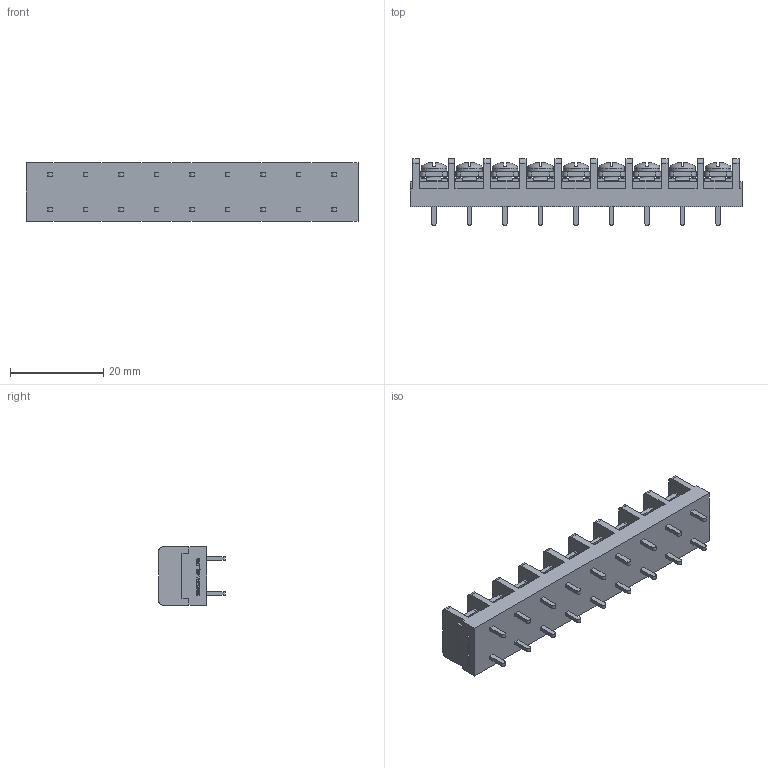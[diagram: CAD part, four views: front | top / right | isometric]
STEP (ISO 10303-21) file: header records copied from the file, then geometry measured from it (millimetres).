
FILE_DESCRIPTION(/* description */ ('Alibre Inc.'),/* implementation_level */ '2;1');
FILE_NAME(/* name */ 'export0',/* time_stamp */ '2015-10-26T18:23:05+09:00',/* author */ (''),/* organization */ (''),/* preprocessor_version */ 'ST-DEVELOPER v14',/* originating_system */ 'Alibre',/* authorisation */ '');
FILE_SCHEMA (('CONFIG_CONTROL_DESIGN'));
Length unit declared in the file: centimetre
Products named in the file (1): ID_1
Bounding box: 71.2 x 14.3 x 12.5 mm (x, y, z)
Volume: 6465.7 mm3; surface area: 5949.5 mm2
Topology: 1 solids, 1 shells, 1295 faces, 3534 edges, 2326 vertices
Faces by surface type: plane 1009, cylinder 110, bspline 104, cone 36, torus 18, sphere 18
Full cylindrical faces by diameter (mm): 3 x9, 5.5 x9
Entity records: 38729 total; most frequent: CARTESIAN_POINT 8354, ORIENTED_EDGE 6960, DIRECTION 4796, EDGE_CURVE 3480, VECTOR 2512, LINE 2512, VERTEX_POINT 2308, AXIS2_PLACEMENT_3D 1602
